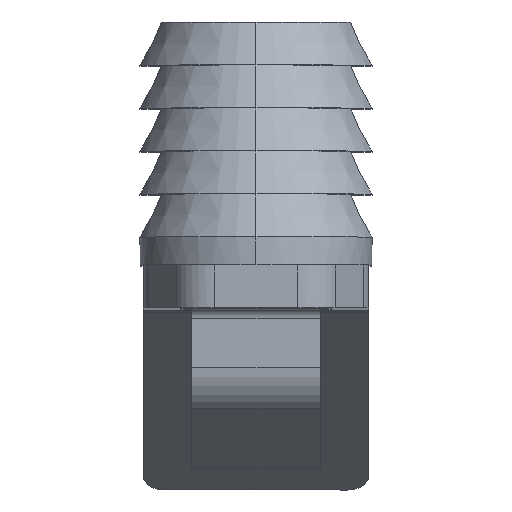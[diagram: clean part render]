
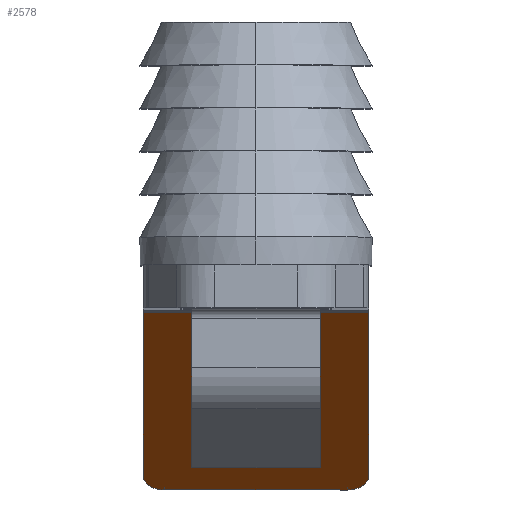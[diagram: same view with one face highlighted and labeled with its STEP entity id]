
A CAD part, top view. The second image highlights one B-rep face of the part: STEP entity #2578.
In plain terms, the highlighted planar face has unit normal (0, -0.766, 0.643).
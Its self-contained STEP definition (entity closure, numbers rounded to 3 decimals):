
#39 = CARTESIAN_POINT ( 'NONE',  ( -5.25, -9.713, -62.643 ) ) ;
#48 = VERTEX_POINT ( 'NONE', #39 ) ;
#148 = VERTEX_POINT ( 'NONE', #2926 ) ;
#183 = VERTEX_POINT ( 'NONE', #2856 ) ;
#197 = VERTEX_POINT ( 'NONE', #2673 ) ;
#199 = VERTEX_POINT ( 'NONE', #2892 ) ;
#200 = VERTEX_POINT ( 'NONE', #2813 ) ;
#227 = AXIS2_PLACEMENT_3D ( 'NONE', #1223, #1244, #1245 ) ;
#259 = AXIS2_PLACEMENT_3D ( 'NONE', #1217, #1216, #1215 ) ;
#344 = EDGE_CURVE ( 'NONE', #148, #183, #1051, .T. ) ;
#371 = EDGE_CURVE ( 'NONE', #200, #197, #1085, .T. ) ;
#395 = EDGE_CURVE ( 'NONE', #48, #199, #1126, .T. ) ;
#423 = EDGE_CURVE ( 'NONE', #199, #197, #1167, .T. ) ;
#424 = EDGE_CURVE ( 'NONE', #48, #148, #1170, .T. ) ;
#441 = EDGE_CURVE ( 'NONE', #183, #200, #2138, .T. ) ;
#830 = ORIENTED_EDGE ( 'NONE', *, *, #395, .F. ) ;
#832 = ORIENTED_EDGE ( 'NONE', *, *, #424, .T. ) ;
#833 = ORIENTED_EDGE ( 'NONE', *, *, #344, .T. ) ;
#835 = ORIENTED_EDGE ( 'NONE', *, *, #441, .T. ) ;
#836 = ORIENTED_EDGE ( 'NONE', *, *, #371, .T. ) ;
#837 = ORIENTED_EDGE ( 'NONE', *, *, #423, .F. ) ;
#1051 = LINE ( 'NONE', #2769, #1052 ) ;
#1052 = VECTOR ( 'NONE', #2845, 1000. ) ;
#1085 = LINE ( 'NONE', #2464, #1087 ) ;
#1087 = VECTOR ( 'NONE', #2471, 1000. ) ;
#1126 = LINE ( 'NONE', #2592, #1127 ) ;
#1127 = VECTOR ( 'NONE', #2600, 1000. ) ;
#1167 = LINE ( 'NONE', #2423, #1169 ) ;
#1169 = VECTOR ( 'NONE', #1232, 1000. ) ;
#1170 = CIRCLE ( 'NONE', #227, 1. ) ;
#1215 = DIRECTION ( 'NONE',  ( 0., -0.643, -0.766 ) ) ;
#1216 = DIRECTION ( 'NONE',  ( 0., -0.766, 0.643 ) ) ;
#1217 = CARTESIAN_POINT ( 'NONE',  ( 4.25, -9.713, -62.643 ) ) ;
#1223 = CARTESIAN_POINT ( 'NONE',  ( -4.25, -9.713, -62.643 ) ) ;
#1232 = DIRECTION ( 'NONE',  ( 1., 0., 0. ) ) ;
#1244 = DIRECTION ( 'NONE',  ( 0., -0.766, 0.643 ) ) ;
#1245 = DIRECTION ( 'NONE',  ( 0., -0.643, -0.766 ) ) ;
#1372 = DIRECTION ( 'NONE',  ( 0., 0.766, -0.643 ) ) ;
#1432 = DIRECTION ( 'NONE',  ( 0., -0.643, -0.766 ) ) ;
#1535 = CARTESIAN_POINT ( 'NONE',  ( -5.25, -10.356, -63.409 ) ) ;
#1549 = PLANE ( 'NONE',  #1958 ) ;
#1958 = AXIS2_PLACEMENT_3D ( 'NONE', #1535, #1372, #1432 ) ;
#2096 = EDGE_LOOP ( 'NONE', ( #830, #832, #833, #835, #836, #837 ) ) ;
#2138 = CIRCLE ( 'NONE', #259, 1. ) ;
#2403 = FACE_OUTER_BOUND ( 'NONE', #2096, .T. ) ;
#2423 = CARTESIAN_POINT ( 'NONE',  ( -5.25, -2.117, -53.589 ) ) ;
#2464 = CARTESIAN_POINT ( 'NONE',  ( 5.25, -10.356, -63.409 ) ) ;
#2471 = DIRECTION ( 'NONE',  ( 0., 0.643, 0.766 ) ) ;
#2578 = ADVANCED_FACE ( 'NONE', ( #2403 ), #1549, .F. ) ;
#2592 = CARTESIAN_POINT ( 'NONE',  ( -5.25, -10.356, -63.409 ) ) ;
#2600 = DIRECTION ( 'NONE',  ( 0., 0.643, 0.766 ) ) ;
#2673 = CARTESIAN_POINT ( 'NONE',  ( 5.25, -2.117, -53.589 ) ) ;
#2769 = CARTESIAN_POINT ( 'NONE',  ( -5.25, -10.356, -63.409 ) ) ;
#2813 = CARTESIAN_POINT ( 'NONE',  ( 5.25, -9.713, -62.643 ) ) ;
#2845 = DIRECTION ( 'NONE',  ( 1., 0., 0. ) ) ;
#2856 = CARTESIAN_POINT ( 'NONE',  ( 4.25, -10.356, -63.409 ) ) ;
#2892 = CARTESIAN_POINT ( 'NONE',  ( -5.25, -2.117, -53.589 ) ) ;
#2926 = CARTESIAN_POINT ( 'NONE',  ( -4.25, -10.356, -63.409 ) ) ;
